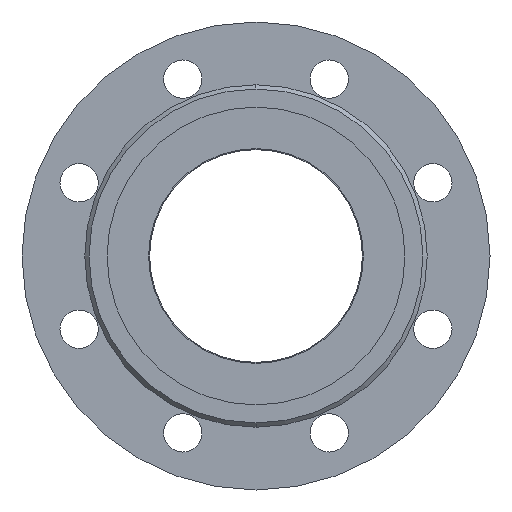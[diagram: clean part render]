
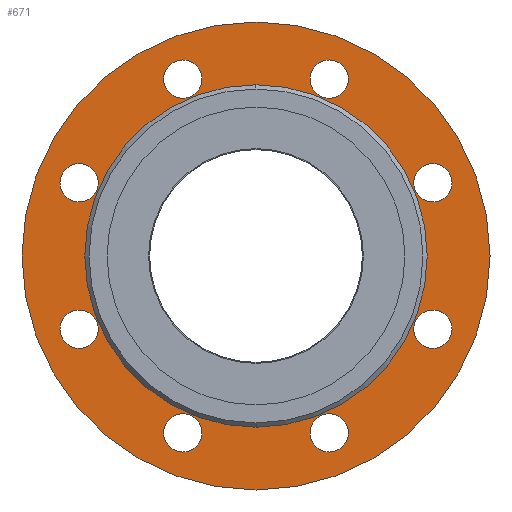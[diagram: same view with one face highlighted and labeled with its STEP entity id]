
A CAD part, left-side view. The second image highlights one B-rep face of the part: STEP entity #671.
In plain terms, the highlighted planar face has unit normal (-1, 0, 0).
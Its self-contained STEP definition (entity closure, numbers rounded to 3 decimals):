
#671=ADVANCED_FACE('',(#1312,#1313,#1314,#1315,#1316,#1317,#1318,#1319,#1320,#1321),#1322,.F.);
#1312=FACE_BOUND('',#2106,.T.);
#1313=FACE_BOUND('',#2107,.T.);
#1314=FACE_BOUND('',#2108,.T.);
#1315=FACE_BOUND('',#2109,.T.);
#1316=FACE_BOUND('',#2110,.T.);
#1317=FACE_BOUND('',#2111,.T.);
#1318=FACE_BOUND('',#2112,.T.);
#1319=FACE_BOUND('',#2113,.T.);
#1320=FACE_BOUND('',#2114,.T.);
#1321=FACE_OUTER_BOUND('',#2115,.T.);
#1322=PLANE('',#2116);
#2106=EDGE_LOOP('',(#3205,#3206));
#2107=EDGE_LOOP('',(#3207,#3208));
#2108=EDGE_LOOP('',(#3209,#3210));
#2109=EDGE_LOOP('',(#3211,#3212));
#2110=EDGE_LOOP('',(#3213,#3214));
#2111=EDGE_LOOP('',(#3215,#3216));
#2112=EDGE_LOOP('',(#3217,#3218));
#2113=EDGE_LOOP('',(#3219,#3220));
#2114=EDGE_LOOP('',(#3221,#3222));
#2115=EDGE_LOOP('',(#3223,#3224));
#2116=AXIS2_PLACEMENT_3D('',#3225,#3226,#3227);
#3205=ORIENTED_EDGE('',*,*,#4544,.T.);
#3206=ORIENTED_EDGE('',*,*,#4374,.T.);
#3207=ORIENTED_EDGE('',*,*,#4545,.T.);
#3208=ORIENTED_EDGE('',*,*,#4546,.T.);
#3209=ORIENTED_EDGE('',*,*,#4547,.T.);
#3210=ORIENTED_EDGE('',*,*,#4548,.T.);
#3211=ORIENTED_EDGE('',*,*,#4549,.T.);
#3212=ORIENTED_EDGE('',*,*,#4424,.T.);
#3213=ORIENTED_EDGE('',*,*,#4481,.T.);
#3214=ORIENTED_EDGE('',*,*,#4339,.T.);
#3215=ORIENTED_EDGE('',*,*,#4211,.T.);
#3216=ORIENTED_EDGE('',*,*,#4550,.T.);
#3217=ORIENTED_EDGE('',*,*,#4551,.T.);
#3218=ORIENTED_EDGE('',*,*,#4326,.T.);
#3219=ORIENTED_EDGE('',*,*,#4206,.T.);
#3220=ORIENTED_EDGE('',*,*,#4552,.T.);
#3221=ORIENTED_EDGE('',*,*,#4447,.T.);
#3222=ORIENTED_EDGE('',*,*,#4356,.T.);
#3223=ORIENTED_EDGE('',*,*,#4386,.F.);
#3224=ORIENTED_EDGE('',*,*,#4553,.F.);
#3225=CARTESIAN_POINT('',(5.0,0.0,0.));
#3226=DIRECTION('',(1.0,0.0,0.));
#3227=DIRECTION('',(0.,0.0,-1.0));
#4206=EDGE_CURVE('',#4903,#4907,#4909,.T.);
#4211=EDGE_CURVE('',#4912,#4916,#4918,.T.);
#4326=EDGE_CURVE('',#5102,#5100,#5103,.T.);
#4339=EDGE_CURVE('',#5124,#5122,#5125,.T.);
#4356=EDGE_CURVE('',#5151,#5149,#5152,.T.);
#4374=EDGE_CURVE('',#5177,#5181,#5183,.T.);
#4386=EDGE_CURVE('',#5200,#5203,#5204,.T.);
#4424=EDGE_CURVE('',#5263,#5261,#5264,.T.);
#4447=EDGE_CURVE('',#5149,#5151,#5296,.T.);
#4481=EDGE_CURVE('',#5122,#5124,#5349,.T.);
#4544=EDGE_CURVE('',#5181,#5177,#5437,.T.);
#4545=EDGE_CURVE('',#5438,#5439,#5440,.T.);
#4546=EDGE_CURVE('',#5439,#5438,#5441,.T.);
#4547=EDGE_CURVE('',#5442,#5443,#5444,.T.);
#4548=EDGE_CURVE('',#5443,#5442,#5445,.T.);
#4549=EDGE_CURVE('',#5261,#5263,#5446,.T.);
#4550=EDGE_CURVE('',#4916,#4912,#5447,.T.);
#4551=EDGE_CURVE('',#5100,#5102,#5448,.T.);
#4552=EDGE_CURVE('',#4907,#4903,#5449,.T.);
#4553=EDGE_CURVE('',#5203,#5200,#5450,.T.);
#4903=VERTEX_POINT('',#5875);
#4907=VERTEX_POINT('',#5880);
#4909=CIRCLE('',#5883,9.0);
#4912=VERTEX_POINT('',#5886);
#4916=VERTEX_POINT('',#5891);
#4918=CIRCLE('',#5894,9.0);
#5100=VERTEX_POINT('',#6133);
#5102=VERTEX_POINT('',#6136);
#5103=CIRCLE('',#6137,9.0);
#5122=VERTEX_POINT('',#6158);
#5124=VERTEX_POINT('',#6161);
#5125=CIRCLE('',#6162,9.0);
#5149=VERTEX_POINT('',#6187);
#5151=VERTEX_POINT('',#6190);
#5152=CIRCLE('',#6191,9.0);
#5177=VERTEX_POINT('',#6220);
#5181=VERTEX_POINT('',#6225);
#5183=CIRCLE('',#6228,50.0);
#5200=VERTEX_POINT('',#6249);
#5203=VERTEX_POINT('',#6253);
#5204=CIRCLE('',#6254,110.0);
#5261=VERTEX_POINT('',#6330);
#5263=VERTEX_POINT('',#6333);
#5264=CIRCLE('',#6334,9.0);
#5296=CIRCLE('',#6369,9.0);
#5349=CIRCLE('',#6430,9.0);
#5437=CIRCLE('',#6534,50.0);
#5438=VERTEX_POINT('',#6535);
#5439=VERTEX_POINT('',#6536);
#5440=CIRCLE('',#6537,9.0);
#5441=CIRCLE('',#6538,9.0);
#5442=VERTEX_POINT('',#6539);
#5443=VERTEX_POINT('',#6540);
#5444=CIRCLE('',#6541,9.0);
#5445=CIRCLE('',#6542,9.0);
#5446=CIRCLE('',#6543,9.0);
#5447=CIRCLE('',#6544,9.0);
#5448=CIRCLE('',#6545,9.0);
#5449=CIRCLE('',#6546,9.0);
#5450=CIRCLE('',#6547,110.0);
#5875=CARTESIAN_POINT('',(5.0,-83.149,-43.442));
#5880=CARTESIAN_POINT('',(5.0,-83.149,-25.442));
#5883=AXIS2_PLACEMENT_3D('',#7007,#7008,#7009);
#5886=CARTESIAN_POINT('',(5.0,83.149,25.442));
#5891=CARTESIAN_POINT('',(5.0,83.149,43.442));
#5894=AXIS2_PLACEMENT_3D('',#7015,#7016,#7017);
#6133=CARTESIAN_POINT('',(5.0,34.442,74.149));
#6136=CARTESIAN_POINT('',(5.,34.442,92.149));
#6137=AXIS2_PLACEMENT_3D('',#7151,#7152,#7153);
#6158=CARTESIAN_POINT('',(5.0,-34.442,74.149));
#6161=CARTESIAN_POINT('',(5.,-34.442,92.149));
#6162=AXIS2_PLACEMENT_3D('',#7175,#7176,#7177);
#6187=CARTESIAN_POINT('',(5.0,-34.442,-92.149));
#6190=CARTESIAN_POINT('',(5.0,-34.442,-74.149));
#6191=AXIS2_PLACEMENT_3D('',#7204,#7205,#7206);
#6220=CARTESIAN_POINT('',(5.0,0.,-50.0));
#6225=CARTESIAN_POINT('',(5.0,0.,50.0));
#6228=AXIS2_PLACEMENT_3D('',#7237,#7238,#7239);
#6249=CARTESIAN_POINT('',(5.,0.0,-110.0));
#6253=CARTESIAN_POINT('',(5.,0.,110.0));
#6254=AXIS2_PLACEMENT_3D('',#7254,#7255,#7256);
#6330=CARTESIAN_POINT('',(5.0,-83.149,25.442));
#6333=CARTESIAN_POINT('',(5.0,-83.149,43.442));
#6334=AXIS2_PLACEMENT_3D('',#7301,#7302,#7303);
#6369=AXIS2_PLACEMENT_3D('',#7355,#7356,#7357);
#6430=AXIS2_PLACEMENT_3D('',#7411,#7412,#7413);
#6534=AXIS2_PLACEMENT_3D('',#7508,#7509,#7510);
#6535=CARTESIAN_POINT('',(5.0,83.149,-43.442));
#6536=CARTESIAN_POINT('',(5.0,83.149,-25.442));
#6537=AXIS2_PLACEMENT_3D('',#7511,#7512,#7513);
#6538=AXIS2_PLACEMENT_3D('',#7514,#7515,#7516);
#6539=CARTESIAN_POINT('',(5.0,34.442,-92.149));
#6540=CARTESIAN_POINT('',(5.0,34.442,-74.149));
#6541=AXIS2_PLACEMENT_3D('',#7517,#7518,#7519);
#6542=AXIS2_PLACEMENT_3D('',#7520,#7521,#7522);
#6543=AXIS2_PLACEMENT_3D('',#7523,#7524,#7525);
#6544=AXIS2_PLACEMENT_3D('',#7526,#7527,#7528);
#6545=AXIS2_PLACEMENT_3D('',#7529,#7530,#7531);
#6546=AXIS2_PLACEMENT_3D('',#7532,#7533,#7534);
#6547=AXIS2_PLACEMENT_3D('',#7535,#7536,#7537);
#7007=CARTESIAN_POINT('',(5.0,-83.149,-34.442));
#7008=DIRECTION('',(1.0,0.0,0.));
#7009=DIRECTION('',(0.,0.0,-1.0));
#7015=CARTESIAN_POINT('',(5.0,83.149,34.442));
#7016=DIRECTION('',(1.0,0.0,0.));
#7017=DIRECTION('',(0.,0.0,-1.0));
#7151=CARTESIAN_POINT('',(5.,34.442,83.149));
#7152=DIRECTION('',(1.0,0.0,0.));
#7153=DIRECTION('',(0.,0.0,-1.0));
#7175=CARTESIAN_POINT('',(5.,-34.442,83.149));
#7176=DIRECTION('',(1.0,0.0,0.));
#7177=DIRECTION('',(0.,0.0,-1.0));
#7204=CARTESIAN_POINT('',(5.,-34.442,-83.149));
#7205=DIRECTION('',(1.0,0.0,0.));
#7206=DIRECTION('',(0.,0.0,-1.0));
#7237=CARTESIAN_POINT('',(5.0,0.0,0.));
#7238=DIRECTION('',(1.0,0.0,0.));
#7239=DIRECTION('',(0.,0.0,-1.0));
#7254=CARTESIAN_POINT('',(5.0,0.0,0.));
#7255=DIRECTION('',(1.0,0.0,0.));
#7256=DIRECTION('',(0.,0.0,-1.0));
#7301=CARTESIAN_POINT('',(5.0,-83.149,34.442));
#7302=DIRECTION('',(1.0,0.0,0.));
#7303=DIRECTION('',(0.,0.0,-1.0));
#7355=CARTESIAN_POINT('',(5.,-34.442,-83.149));
#7356=DIRECTION('',(1.0,0.0,0.));
#7357=DIRECTION('',(0.,0.0,-1.0));
#7411=CARTESIAN_POINT('',(5.,-34.442,83.149));
#7412=DIRECTION('',(1.0,0.0,0.));
#7413=DIRECTION('',(0.,0.0,-1.0));
#7508=CARTESIAN_POINT('',(5.0,0.0,0.));
#7509=DIRECTION('',(1.0,0.0,0.));
#7510=DIRECTION('',(0.,0.0,-1.0));
#7511=CARTESIAN_POINT('',(5.0,83.149,-34.442));
#7512=DIRECTION('',(1.0,0.0,0.));
#7513=DIRECTION('',(0.,0.0,-1.0));
#7514=CARTESIAN_POINT('',(5.0,83.149,-34.442));
#7515=DIRECTION('',(1.0,0.0,0.));
#7516=DIRECTION('',(0.,0.0,-1.0));
#7517=CARTESIAN_POINT('',(5.,34.442,-83.149));
#7518=DIRECTION('',(1.0,0.0,0.));
#7519=DIRECTION('',(0.,0.0,-1.0));
#7520=CARTESIAN_POINT('',(5.,34.442,-83.149));
#7521=DIRECTION('',(1.0,0.0,0.));
#7522=DIRECTION('',(0.,0.0,-1.0));
#7523=CARTESIAN_POINT('',(5.0,-83.149,34.442));
#7524=DIRECTION('',(1.0,0.0,0.));
#7525=DIRECTION('',(0.,0.0,-1.0));
#7526=CARTESIAN_POINT('',(5.0,83.149,34.442));
#7527=DIRECTION('',(1.0,0.0,0.));
#7528=DIRECTION('',(0.,0.0,-1.0));
#7529=CARTESIAN_POINT('',(5.,34.442,83.149));
#7530=DIRECTION('',(1.0,0.0,0.));
#7531=DIRECTION('',(0.,0.0,-1.0));
#7532=CARTESIAN_POINT('',(5.0,-83.149,-34.442));
#7533=DIRECTION('',(1.0,0.0,0.));
#7534=DIRECTION('',(0.,0.0,-1.0));
#7535=CARTESIAN_POINT('',(5.0,0.0,0.));
#7536=DIRECTION('',(1.0,0.0,0.));
#7537=DIRECTION('',(0.,0.0,-1.0));
